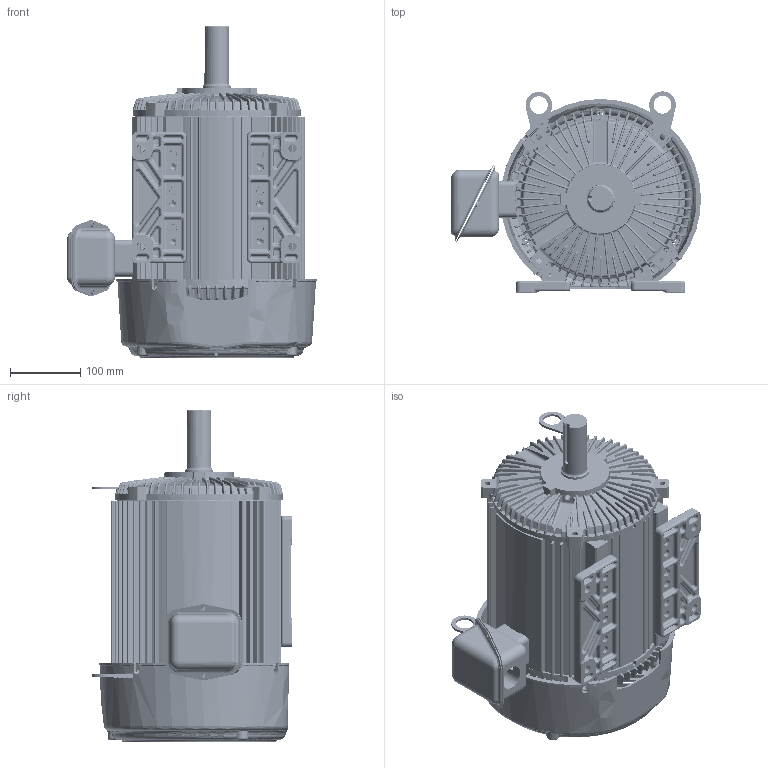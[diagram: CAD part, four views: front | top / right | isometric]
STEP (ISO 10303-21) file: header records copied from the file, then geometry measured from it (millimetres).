
FILE_DESCRIPTION((''),'2;1');
FILE_NAME('STD_LONG_NON_FLNG_ASM','2013-09-25T',('emd2341'),('Nidec Motor Corporation'),'PRO/ENGINEER BY PARAMETRIC TECHNOLOGY CORPORATION, 2013150','PRO/ENGINEER BY PARAMETRIC TECHNOLOGY CORPORATION, 2013150','');
FILE_SCHEMA(('CONFIG_CONTROL_DESIGN'));
Length unit declared in the file: inch
Products named in the file (16): 0392315_AF0; 0361368; 0375083-BKT_AF1; 0361252_AF0; 0375084_ASM; 0373936-BKT_AF0; 0910265_AF0; 1001092-OP13_ASM; 0362111; 0345787; 0367912; 0390920; 0390408; 0390417; 0376890; STD_LONG_NON_FLNG_ASM
Assembly tree (17 placements, depth 3):
  STD_LONG_NON_FLNG_ASM
    0392315_AF0
    0361368  x2
    0375084_ASM
      0375083-BKT_AF1
      0361252_AF0
    1001092-OP13_ASM
      0373936-BKT_AF0
      0910265_AF0
    0362111
    0345787
    0367912
    0390920
    0390408
    0390417
    0376890  x2
Bounding box: 356.12 x 286.05 x 473.06 mm (x, y, z)
Volume: 3695215 mm3; surface area: 1453413.3 mm2
Topology: 17 solids, 17 shells, 6771 faces, 16576 edges, 9756 vertices
Faces by surface type: bspline 2488, cylinder 1406, plane 1405, torus 658, cone 552, sphere 262
Entity records: 313365 total; most frequent: CARTESIAN_POINT 183342, ORIENTED_EDGE 31016, DIRECTION 22260, EDGE_CURVE 15508, AXIS2_PLACEMENT_3D 9396, VERTEX_POINT 9186, B_SPLINE_CURVE_WITH_KNOTS 6650, EDGE_LOOP 6518
